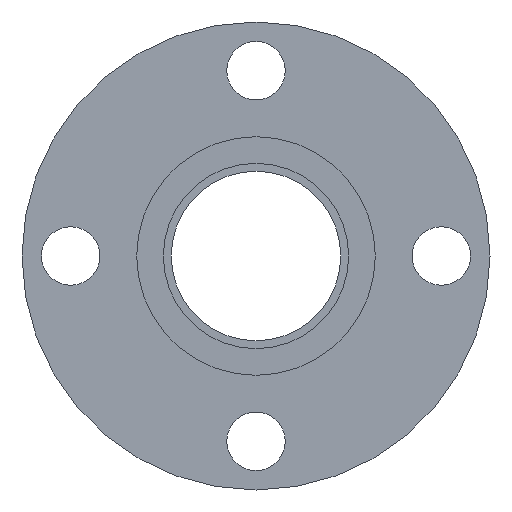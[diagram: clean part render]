
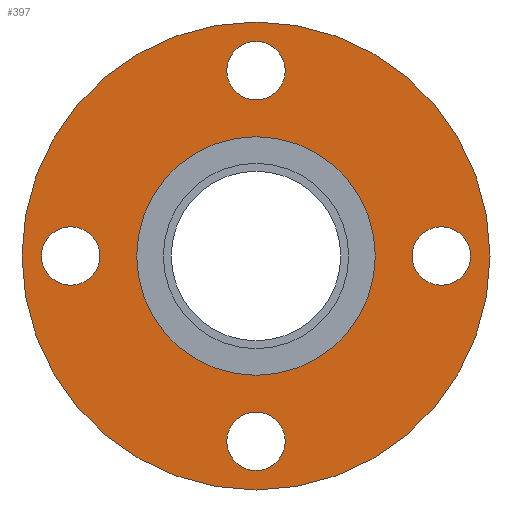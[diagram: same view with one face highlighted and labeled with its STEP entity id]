
A CAD part, left-side view. The second image highlights one B-rep face of the part: STEP entity #397.
In plain terms, the highlighted planar face has unit normal (-1, 0, 0).
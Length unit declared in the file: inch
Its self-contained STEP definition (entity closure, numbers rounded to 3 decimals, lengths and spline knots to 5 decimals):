
#49=FACE_BOUND('',#103,.T.);
#50=FACE_BOUND('',#104,.T.);
#51=FACE_BOUND('',#105,.T.);
#52=FACE_BOUND('',#106,.T.);
#53=FACE_BOUND('',#107,.T.);
#64=PLANE('',#463);
#80=FACE_OUTER_BOUND('',#102,.T.);
#102=EDGE_LOOP('',(#321,#322));
#103=EDGE_LOOP('',(#323));
#104=EDGE_LOOP('',(#324));
#105=EDGE_LOOP('',(#325));
#106=EDGE_LOOP('',(#326));
#107=EDGE_LOOP('',(#327,#328));
#141=CIRCLE('',#424,0.375);
#143=CIRCLE('',#427,0.375);
#145=CIRCLE('',#430,0.375);
#147=CIRCLE('',#433,0.375);
#166=CIRCLE('',#461,1.53);
#167=CIRCLE('',#462,1.53);
#168=CIRCLE('',#464,3.);
#169=CIRCLE('',#465,3.);
#177=VERTEX_POINT('',#640);
#179=VERTEX_POINT('',#646);
#181=VERTEX_POINT('',#652);
#183=VERTEX_POINT('',#658);
#202=VERTEX_POINT('',#710);
#203=VERTEX_POINT('',#711);
#204=VERTEX_POINT('',#716);
#205=VERTEX_POINT('',#717);
#214=EDGE_CURVE('',#177,#177,#141,.T.);
#217=EDGE_CURVE('',#179,#179,#143,.T.);
#220=EDGE_CURVE('',#181,#181,#145,.T.);
#223=EDGE_CURVE('',#183,#183,#147,.T.);
#246=EDGE_CURVE('',#202,#203,#166,.T.);
#247=EDGE_CURVE('',#203,#202,#167,.T.);
#249=EDGE_CURVE('',#204,#205,#168,.T.);
#250=EDGE_CURVE('',#205,#204,#169,.T.);
#321=ORIENTED_EDGE('',*,*,#249,.F.);
#322=ORIENTED_EDGE('',*,*,#250,.F.);
#323=ORIENTED_EDGE('',*,*,#214,.T.);
#324=ORIENTED_EDGE('',*,*,#217,.T.);
#325=ORIENTED_EDGE('',*,*,#220,.T.);
#326=ORIENTED_EDGE('',*,*,#223,.T.);
#327=ORIENTED_EDGE('',*,*,#246,.T.);
#328=ORIENTED_EDGE('',*,*,#247,.T.);
#397=ADVANCED_FACE('',(#80,#49,#50,#51,#52,#53),#64,.T.);
#424=AXIS2_PLACEMENT_3D('',#642,#496,#497);
#427=AXIS2_PLACEMENT_3D('',#648,#503,#504);
#430=AXIS2_PLACEMENT_3D('',#654,#510,#511);
#433=AXIS2_PLACEMENT_3D('',#660,#517,#518);
#461=AXIS2_PLACEMENT_3D('',#712,#577,#578);
#462=AXIS2_PLACEMENT_3D('',#713,#579,#580);
#463=AXIS2_PLACEMENT_3D('',#715,#582,#583);
#464=AXIS2_PLACEMENT_3D('',#718,#584,#585);
#465=AXIS2_PLACEMENT_3D('',#719,#586,#587);
#496=DIRECTION('center_axis',(1.,0.,0.));
#497=DIRECTION('ref_axis',(0.,1.,0.));
#503=DIRECTION('center_axis',(1.,0.,0.));
#504=DIRECTION('ref_axis',(0.,0.,-1.));
#510=DIRECTION('center_axis',(1.,0.,0.));
#511=DIRECTION('ref_axis',(0.,-1.,0.));
#517=DIRECTION('center_axis',(1.,0.,0.));
#518=DIRECTION('ref_axis',(0.,0.,1.));
#577=DIRECTION('center_axis',(1.,0.,0.));
#578=DIRECTION('ref_axis',(0.,0.,-1.));
#579=DIRECTION('center_axis',(1.,0.,0.));
#580=DIRECTION('ref_axis',(0.,0.,-1.));
#582=DIRECTION('center_axis',(-1.,0.,0.));
#583=DIRECTION('ref_axis',(0.,0.,1.));
#584=DIRECTION('center_axis',(1.,0.,0.));
#585=DIRECTION('ref_axis',(0.,0.,-1.));
#586=DIRECTION('center_axis',(1.,0.,0.));
#587=DIRECTION('ref_axis',(0.,0.,-1.));
#640=CARTESIAN_POINT('',(-0.7525,-0.375,-2.375));
#642=CARTESIAN_POINT('Origin',(-0.7525,0.,-2.375));
#646=CARTESIAN_POINT('',(-0.7525,-2.375,0.375));
#648=CARTESIAN_POINT('Origin',(-0.7525,-2.375,0.));
#652=CARTESIAN_POINT('',(-0.7525,0.375,2.375));
#654=CARTESIAN_POINT('Origin',(-0.7525,0.,2.375));
#658=CARTESIAN_POINT('',(-0.7525,2.375,-0.375));
#660=CARTESIAN_POINT('Origin',(-0.7525,2.375,0.));
#710=CARTESIAN_POINT('',(-0.7525,1.53,0.));
#711=CARTESIAN_POINT('',(-0.7525,-1.53,0.));
#712=CARTESIAN_POINT('Origin',(-0.7525,0.,
0.));
#713=CARTESIAN_POINT('Origin',(-0.7525,0.,
0.));
#715=CARTESIAN_POINT('Origin',(-0.7525,3.,0.));
#716=CARTESIAN_POINT('',(-0.7525,3.,0.));
#717=CARTESIAN_POINT('',(-0.7525,-3.,0.));
#718=CARTESIAN_POINT('Origin',(-0.7525,0.,0.));
#719=CARTESIAN_POINT('Origin',(-0.7525,0.,0.));
